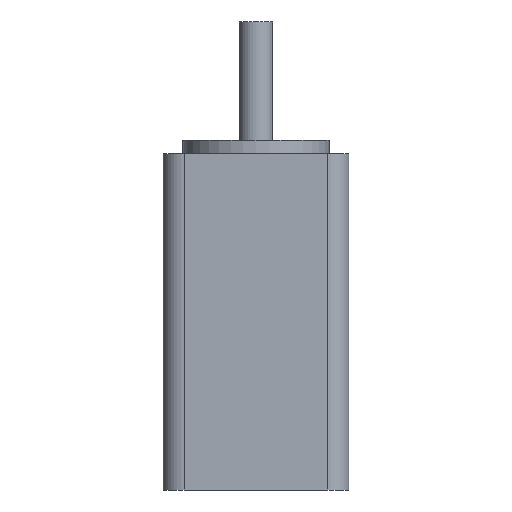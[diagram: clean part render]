
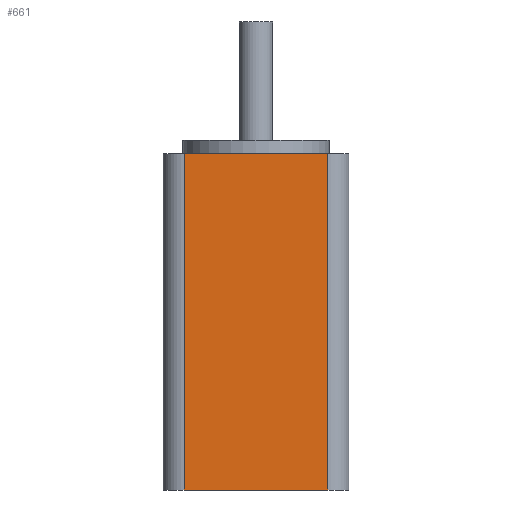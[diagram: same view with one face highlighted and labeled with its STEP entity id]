
A CAD part, front view. The second image highlights one B-rep face of the part: STEP entity #661.
In plain terms, the highlighted planar face has unit normal (0, -1, 0).
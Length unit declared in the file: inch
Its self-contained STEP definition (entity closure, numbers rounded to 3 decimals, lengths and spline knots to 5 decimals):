
#603=CARTESIAN_POINT('',(-0.425,-0.55,0.0));
#604=VERTEX_POINT('',#603);
#612=CARTESIAN_POINT('',(-0.425,-0.55,1.99));
#613=VERTEX_POINT('',#612);
#614=CARTESIAN_POINT('',(-0.425,-0.55,1.99));
#615=DIRECTION('',(0.0,0.0,-1.0));
#616=VECTOR('',#615,1.99);
#617=LINE('',#614,#616);
#618=EDGE_CURVE('',#613,#604,#617,.T.);
#631=CARTESIAN_POINT('',(-0.425,-0.55,1.99));
#632=DIRECTION('',(0.0,-1.0,0.0));
#633=DIRECTION('',(0.0,0.0,-1.0));
#634=AXIS2_PLACEMENT_3D('',#631,#632,#633);
#635=PLANE('',#634);
#636=CARTESIAN_POINT('',(0.425,-0.55,0.0));
#637=VERTEX_POINT('',#636);
#638=CARTESIAN_POINT('',(-0.425,-0.55,0.0));
#639=DIRECTION('',(1.0,0.0,0.0));
#640=VECTOR('',#639,0.85);
#641=LINE('',#638,#640);
#642=EDGE_CURVE('',#604,#637,#641,.T.);
#643=ORIENTED_EDGE('',*,*,#642,.T.);
#644=CARTESIAN_POINT('',(0.425,-0.55,1.99));
#645=VERTEX_POINT('',#644);
#646=CARTESIAN_POINT('',(0.425,-0.55,1.99));
#647=DIRECTION('',(0.0,0.0,-1.0));
#648=VECTOR('',#647,1.99);
#649=LINE('',#646,#648);
#650=EDGE_CURVE('',#645,#637,#649,.T.);
#651=ORIENTED_EDGE('',*,*,#650,.F.);
#652=CARTESIAN_POINT('',(-0.425,-0.55,1.99));
#653=DIRECTION('',(1.0,0.0,0.0));
#654=VECTOR('',#653,0.85);
#655=LINE('',#652,#654);
#656=EDGE_CURVE('',#613,#645,#655,.T.);
#657=ORIENTED_EDGE('',*,*,#656,.F.);
#658=ORIENTED_EDGE('',*,*,#618,.T.);
#659=EDGE_LOOP('',(#643,#651,#657,#658));
#660=FACE_OUTER_BOUND('',#659,.T.);
#661=ADVANCED_FACE('',(#660),#635,.T.);
